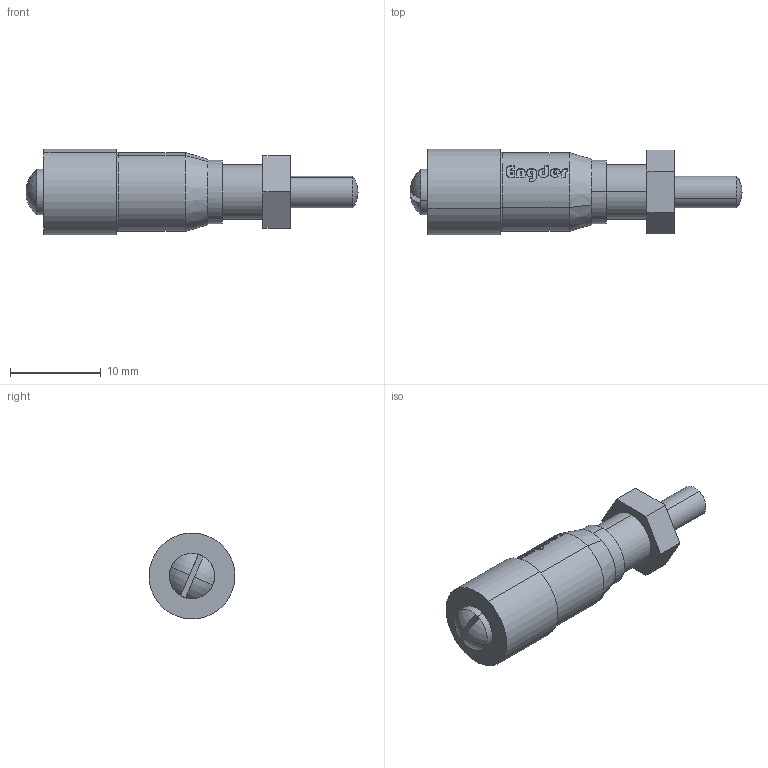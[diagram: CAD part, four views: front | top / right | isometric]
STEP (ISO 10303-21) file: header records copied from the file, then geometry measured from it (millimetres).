
FILE_DESCRIPTION (( 'STEP AP203' ), '1' );
FILE_NAME ('MT6.5-4_customer.STEP', '2019-02-13T12:11:17', ( 'User' ), ( 'No' ), 'SwSTEP 2.0', 'SolidWorks 2012', '' );
FILE_SCHEMA (( 'CONFIG_CONTROL_DESIGN' ));
Length unit declared in the file: millimetre
Products named in the file (4): MT6.5-4_b_customer; MT6.5-4_a_customer; MT6.5-4_c_customer; MT6.5-4_customer
Assembly tree (3 placements, depth 2):
  MT6.5-4_customer
    MT6.5-4_b_customer
    MT6.5-4_a_customer
    MT6.5-4_c_customer
Bounding box: 36.69 x 9.48 x 9.48 mm (x, y, z)
Volume: 1468.6 mm3; surface area: 2295.5 mm2
Topology: 3 solids, 3 shells, 144 faces, 361 edges, 237 vertices
Faces by surface type: plane 51, bspline 49, cylinder 30, cone 6, sphere 6, torus 2
Entity records: 8253 total; most frequent: CARTESIAN_POINT 4745, ORIENTED_EDGE 722, DIRECTION 510, EDGE_CURVE 361, VERTEX_POINT 237, AXIS2_PLACEMENT_3D 211, B_SPLINE_CURVE_WITH_KNOTS 163, EDGE_LOOP 162
